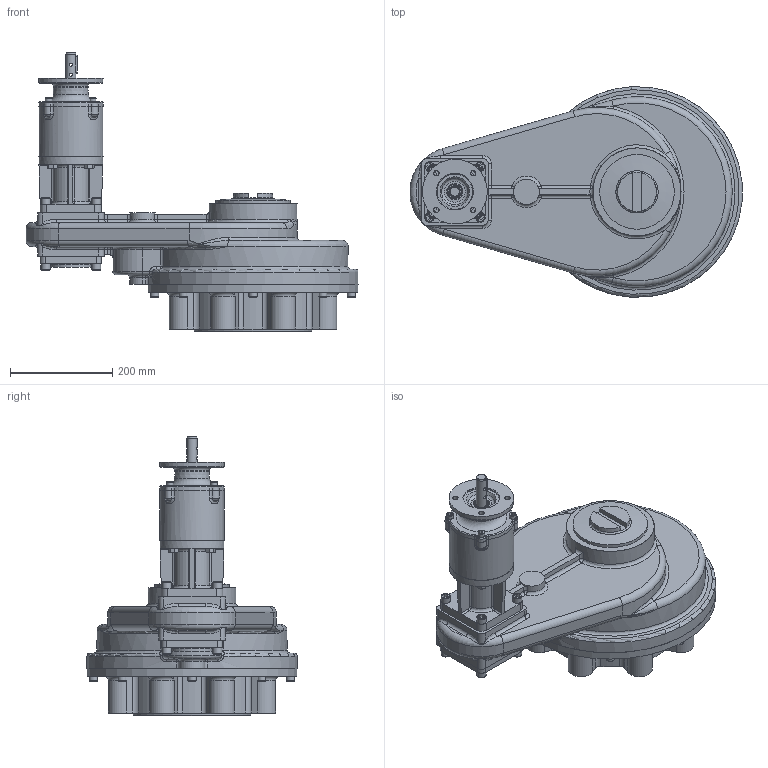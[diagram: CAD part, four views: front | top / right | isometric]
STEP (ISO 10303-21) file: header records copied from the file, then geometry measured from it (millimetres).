
FILE_DESCRIPTION( ( 'Unknown' ), '1' );
FILE_NAME( 'X:/CURRENT/PUB/Hos/HOS 2015/HOS-MPR/HOS-MPR-Models/PUB-HOS11MPR6-88-F30.stp', 'Unknown', ( 'Unknown' ), ( 'Unknown' ), 'PSStep 16.0.42', 'Unknown', ' ' );
FILE_SCHEMA( ( 'AUTOMOTIVE_DESIGN { 1 0 10303 214 1 1 1 1 }' ) );
Length unit declared in the file: millimetre
Products named in the file (38): 1; 2; 3; 4; 5; 6; 7; 8; 9; 10; 11; 12; trelleborg_trea00200-n7mm_b5c67wtxxcj74kwnwb2box077_01; 13; 14; 15; 16; 17; 18; 19; 20; 21; 22; 23; 24; 25; 26; 27; 28; 29; 30; 31; 32; 33; 34; 35; 36; 37
Bounding box: 649.02 x 411.38 x 545.6 mm (x, y, z)
Surface area: 996539.8 mm2 (no closed solid volume)
Topology: 0 solids, 860 shells, 860 faces, 4031 edges, 3895 vertices
Faces by surface type: plane 302, cylinder 223, bspline 152, torus 101, cone 66, sphere 16
Full cylindrical faces by diameter (mm): 6 x2, 10.5 x4, 13.27 x4, 16 x8, 17.294 x8, 18 x8, 20 x1, 30 x2, 50 x1, 70 x1, 80 x1, 125 x1, 126 x1, 130.175 x1, 146.05 x1, 172 x1, 229.95 x1, 239.95 x1, 412 x1
Entity records: 86360 total; most frequent: CARTESIAN_POINT 49853, DIRECTION 6241, VERTEX_POINT 3854, ORIENTED_EDGE 3846, EDGE_CURVE 3846, AXIS2_PLACEMENT_3D 2375, CIRCLE 1629, LINE 1491
